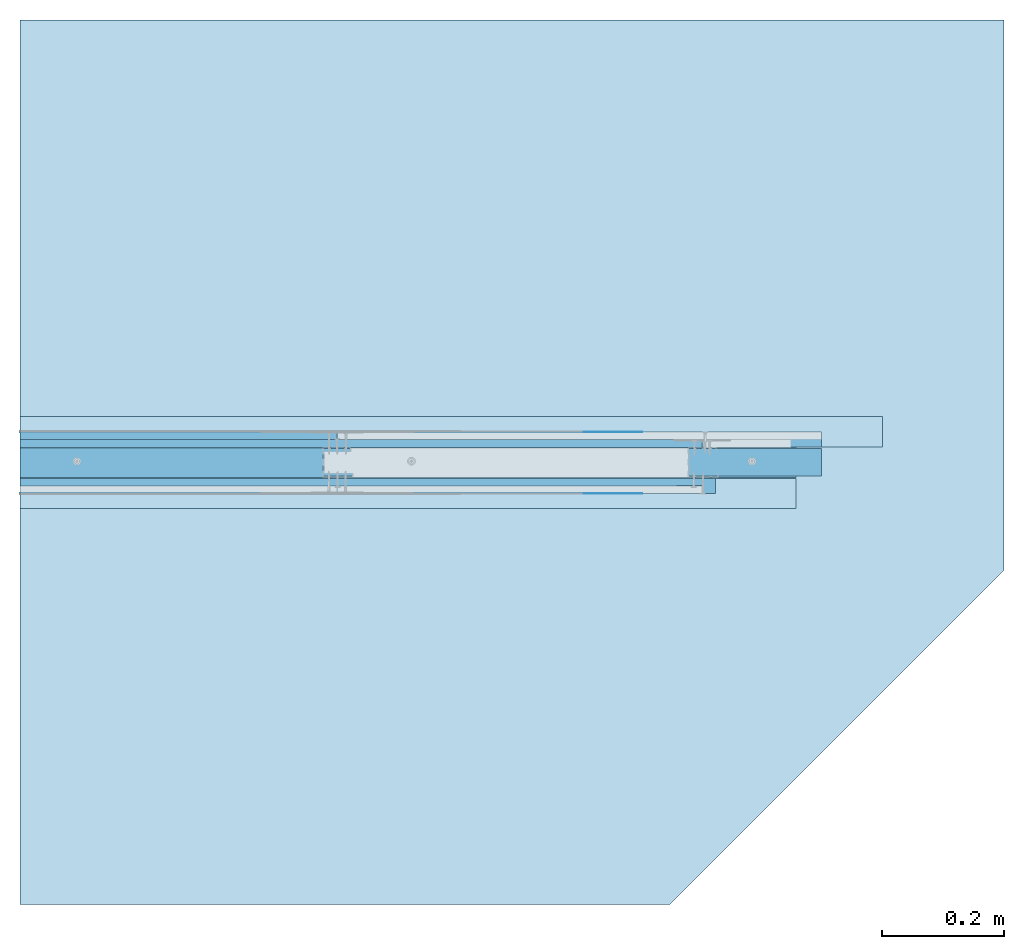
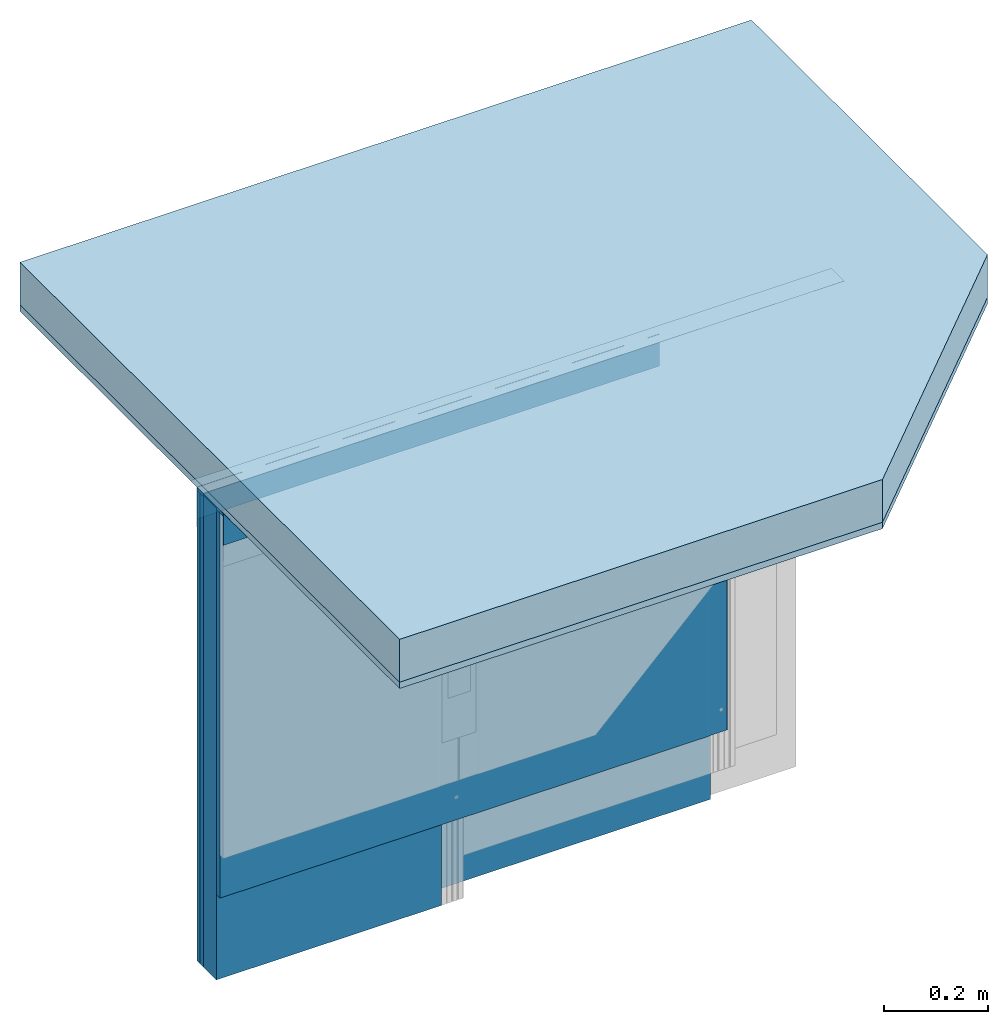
# One storey, part 1 of 37: 10 walls, 4 slabs.
"""IFC2X3 building model written with IfcOpenShell, lengths in millimetres."""

from ifc_helpers import new_model, entity, si_unit, converted_unit, direction, frame, origin, origin_with_axes, place, context, project, spatial, faceted_brep, element, save


model = new_model("IFC2X3")

# Units and contexts
model_context = context("Model", 3, precision=1e-05, world=origin(), true_north=direction((0.0, 1.0, 0.0)))
ifc_project = project(units=[si_unit("LENGTHUNIT", "METRE", prefix="MILLI"), si_unit("AREAUNIT", "SQUARE_METRE"), si_unit("VOLUMEUNIT", "CUBIC_METRE"), converted_unit("PLANEANGLEUNIT", "DEGREE", entity("IfcPlaneAngleMeasure", 0.01745), si_unit("PLANEANGLEUNIT", "RADIAN"), dimensions=[0, 0, 0, 0, 0, 0, 0]), si_unit("SOLIDANGLEUNIT", "STERADIAN"), si_unit("MASSUNIT", "GRAM"), si_unit("TIMEUNIT", "SECOND"), si_unit("THERMODYNAMICTEMPERATUREUNIT", "DEGREE_CELSIUS"), si_unit("LUMINOUSINTENSITYUNIT", "LUMEN")], contexts=[model_context])

# Site, building, storey
site_placement = place(None, origin_with_axes())
site = spatial("IfcSite", under=ifc_project, at=site_placement, Name="Default Site", CompositionType="ELEMENT")
building_placement = place(site_placement, origin_with_axes())
building = spatial("IfcBuilding", under=site, at=building_placement, Name="Default Building", CompositionType="ELEMENT")
storey_placement = place(building_placement, origin_with_axes())
storey = spatial("IfcBuildingStorey", under=building, at=storey_placement, Name="Default Building Storey", CompositionType="ELEMENT", Elevation=0.0)

# Slabs
slab_1_placement = place(storey_placement, frame((3516.951496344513, -1290.142300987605, 1402.224461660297), z_axis=(7.620176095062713e-14, 6.858158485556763e-13, -1.0), x_axis=(1.0, 9.714451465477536e-17, 7.62017609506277e-14)))
element("IfcSlab", 1, at=slab_1_placement, inside=storey, Name="STROP", context=model_context, shape_type="Brep", body=[
    faceted_brep([(226.0891218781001, -3110.283223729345, -4.200000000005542), (-323.9108781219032, -2560.283223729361, -4.200000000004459), (-323.9108781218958, -2560.283223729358, -104.1999999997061), (226.0891218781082, -3110.283223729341, -104.199999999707), (-1391.926362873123, -2560.283223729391, -104.2000000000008), (-1391.92636287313, -2560.28322372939, -4.20000000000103), (-1391.926362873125, -4014.87455750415, -104.1999999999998), (226.0891218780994, -4014.874557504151, -104.1999999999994), (-1391.926362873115, -4014.874557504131, -4.199999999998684), (226.0891218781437, -4014.874557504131, -4.200000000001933)], [[[0, 1, 2, 3]], [[4, 2, 1, 5]], [[6, 7, 3, 2, 4]], [[8, 5, 1, 0, 9]], [[0, 3, 7, 9]], [[6, 8, 9, 7]], [[6, 4, 5, 8]]]),
])
slab_2_placement = place(storey_placement, frame((3516.95149634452, -1290.142300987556, 1302.224461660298), z_axis=(7.620176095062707e-14, 6.858158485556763e-13, -1.0), x_axis=(1.0, 9.714451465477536e-17, 7.62017609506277e-14)))
element("IfcSlab", 2, at=slab_2_placement, inside=storey, Name="TYNK", context=model_context, shape_type="Brep", body=[
    faceted_brep([(226.0891218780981, -3110.283223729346, -89.20000000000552), (-323.9108781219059, -2560.283223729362, -89.2000000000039), (-323.9108781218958, -2560.283223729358, -104.1999999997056), (226.0891218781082, -3110.283223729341, -104.1999999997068), (-1391.926362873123, -2560.283223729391, -104.2000000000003), (-1391.926362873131, -2560.283223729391, -89.20000000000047), (-1391.926362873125, -4014.87455750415, -104.1999999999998), (226.0891218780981, -4014.874557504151, -104.1999999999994), (-1391.926362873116, -4014.874557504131, -89.19999999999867), (226.0891218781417, -4014.874557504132, -89.2000000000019)], [[[0, 1, 2, 3]], [[4, 2, 1, 5]], [[6, 7, 3, 2, 4]], [[8, 5, 1, 0, 9]], [[0, 3, 7, 9]], [[6, 8, 9, 7]], [[6, 4, 5, 8]]]),
])
slab_3_placement = place(storey_placement, frame((2664.57132504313, 1208.720861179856, -1998.432260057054), z_axis=(1.0, -1.110223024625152e-16, 2.730755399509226e-18), x_axis=(-1.110223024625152e-16, -1.0, -7.216449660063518e-16)))
element("IfcSlab", 3, at=slab_3_placement, inside=storey, Name="Taśma samoprzylepna RIGIPS (ślizgowa)", context=model_context, shape_type="Brep", body=[
    faceted_brep([(-712.4592163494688, -3389.656721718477, 736.171398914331), (-712.4592163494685, -3389.856721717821, 736.1713989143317), (-762.4592163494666, -3389.856721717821, 736.1713989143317), (-762.4592163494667, -3389.656721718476, 736.171398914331), (-712.4592163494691, -3389.856721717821, -539.5461915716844), (-712.4592163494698, -3389.656721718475, -539.5461915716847), (-762.4592163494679, -3389.656721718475, -539.5461915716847), (-762.459216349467, -3389.856721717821, -539.5461915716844)], [[[0, 1, 2, 3]], [[4, 5, 6, 7]], [[5, 0, 3, 6]], [[6, 3, 2, 7]], [[7, 2, 1, 4]], [[4, 1, 0, 5]]]),
])
slab_4_placement = place(storey_placement, frame((2919.516757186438, 2784.953969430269, -1998.43226005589), z_axis=(-1.0, 1.56941221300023e-16, -1.594743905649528e-13), x_axis=(1.722546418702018e-16, 1.0, 1.359600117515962e-12)))
element("IfcSlab", 4, at=slab_4_placement, inside=storey, Name="Taśma samoprzylepna RIGIPS (ślizgowa)", context=model_context, shape_type="Brep", body=[
    faceted_brep([(-712.4592163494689, -3389.656721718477, 794.4916237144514), (-712.4592163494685, -3389.856721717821, 794.4916237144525), (-762.4592163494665, -3389.856721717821, 794.4916237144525), (-762.4592163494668, -3389.656721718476, 794.4916237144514), (-712.4592163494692, -3389.856721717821, -623.5238610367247), (-712.4592163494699, -3389.656721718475, -623.5238610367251), (-762.459216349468, -3389.656721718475, -623.5238610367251), (-762.4592163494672, -3389.856721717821, -623.5238610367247)], [[[0, 1, 2, 3]], [[4, 5, 6, 7]], [[5, 0, 3, 6]], [[6, 3, 2, 7]], [[7, 2, 1, 4]], [[4, 1, 0, 5]]]),
])

# Walls
wall_1_placement = place(storey_placement, frame((2662.545703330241, 5335.836799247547, 2103.68367801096), z_axis=(1.0, 1.078684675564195e-13, 1.253835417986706e-13), x_axis=(-1.253835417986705e-13, -6.938893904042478e-16, 1.0)))
element("IfcWall", 5, at=wall_1_placement, inside=storey, Name="Dedykowana masa szpachlowa Rigips - konstrukcyjna", context=model_context, shape_type="Brep", body=[
    faceted_brep([(-712.4592163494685, 3389.656721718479, 485.8839453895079), (-712.4592163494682, 3389.856721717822, 485.8839453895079), (-787.4592163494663, 3389.856721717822, 485.8839453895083), (-787.4592163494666, 3389.656721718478, 485.8839453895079), (-712.4592163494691, 3389.85672171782, -537.520569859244), (-712.4592163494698, 3389.656721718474, -537.520569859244), (-787.459216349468, 3389.656721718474, -537.520569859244), (-787.4592163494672, 3389.85672171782, -537.520569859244)], [[[0, 1, 2, 3]], [[4, 5, 6, 7]], [[5, 0, 3, 6]], [[6, 3, 2, 7]], [[7, 2, 1, 4]], [[4, 1, 0, 5]]]),
])
wall_2_placement = place(storey_placement, frame((2662.545703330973, -1342.51579897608, 2103.683678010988), z_axis=(1.0, 1.078684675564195e-13, 1.253835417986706e-13), x_axis=(-1.253835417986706e-13, -2.775557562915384e-17, 1.0)))
element("IfcWall", 6, at=wall_2_placement, inside=storey, Name="Dedykowana masa szpachlowa Rigips - konstrukcyjna", context=model_context, shape_type="Brep", body=[
    faceted_brep([(-712.4592163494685, -3389.656721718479, 485.8839453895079), (-712.4592163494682, -3389.856721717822, 485.8839453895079), (-787.4592163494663, -3389.856721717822, 485.8839453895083), (-787.4592163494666, -3389.656721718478, 485.8839453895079), (-712.4592163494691, -3389.85672171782, -537.520569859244), (-712.4592163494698, -3389.656721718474, -537.520569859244), (-787.459216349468, -3389.656721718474, -537.520569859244), (-787.4592163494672, -3389.85672171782, -537.520569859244)], [[[0, 1, 2, 3]], [[4, 5, 6, 7]], [[5, 0, 3, 6]], [[6, 3, 2, 7]], [[7, 2, 1, 4]], [[4, 1, 0, 5]]]),
])
wall_3_placement = place(storey_placement, frame((3443.040618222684, 2022.494753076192, 1391.424461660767), z_axis=(0.0, 0.0, -1.0), x_axis=(1.0, 0.0, 0.0)))
element("IfcWall", 7, at=wall_3_placement, inside=storey, Name="Dedykowana masa szpachlowa Rigips - konstrukcyjna", context=model_context, shape_type="Brep", body=[
    faceted_brep([(0.0, -24.6461696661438, 0.199999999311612), (0.0, 0.0, 0.199999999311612), (-1318.015484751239, 0.0, 0.199999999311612), (-1318.015484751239, -24.6461696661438, 0.199999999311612), (0.0, 0.0, 7.614392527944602), (-1318.015484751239, 0.0, 7.614392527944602), (0.0, -24.6461696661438, 7.614392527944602), (-1318.015484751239, -24.6461696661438, 7.614392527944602)], [[[0, 1, 2, 3]], [[1, 4, 5, 2]], [[4, 6, 7, 5]], [[6, 0, 3, 7]], [[7, 3, 2, 5]], [[0, 6, 4, 1]]]),
])
wall_4_placement = place(storey_placement, frame((2646.429648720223, 2034.640922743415, 333.8084874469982), z_axis=(0.0, 0.0, -1.0), x_axis=(-1.0, 0.0, 0.0)))
element("IfcWall", 8, at=wall_4_placement, inside=storey, Name="Płyta gipsowo-kartonowa RIGIPS PRO (4PRO™)", context=model_context, shape_type="Brep", body=[
    faceted_brep([(521.4045152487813, 12.4999999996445, 50.00000000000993), (521.4045152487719, -3.277477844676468e-10, 50.00000000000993), (521.404515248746, -3.241382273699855e-10, -1050.001581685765), (521.4045152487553, 12.49999999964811, -1050.001581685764), (44.99999999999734, 12.50000000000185, 50.00000000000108), (40.99999999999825, 11.50000000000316, 50.00000000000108), (0.9999999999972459, 11.50000000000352, 50.00000000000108), (0.7411809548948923, 11.46592582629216, 50.00000000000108), (0.4999999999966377, 11.36602540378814, 50.00000000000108), (0.2928932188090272, 11.20710678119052, 50.00000000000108), (0.1339745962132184, 11.00000000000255, 50.00000000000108), (0.0340741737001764, 10.75881904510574, 50.00000000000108), (-3.248601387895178e-12, 10.50000000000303, 50.00000000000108), (-1.082867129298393e-12, -3.609557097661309e-13, 50.00000000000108), (44.99999999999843, 12.50000000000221, -1050.001581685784), (40.99999999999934, 11.50000000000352, -1050.001581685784), (0.9999999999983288, 11.50000000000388, -1050.001581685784), (0.7411809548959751, 11.46592582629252, -1050.001581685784), (0.4999999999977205, 11.3660254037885, -1050.001581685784), (0.29289321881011, 11.20710678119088, -1050.001581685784), (0.1339745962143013, 11.00000000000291, -1050.001581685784), (0.03407417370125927, 10.7588190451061, -1050.001581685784), (-2.165734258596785e-12, 10.50000000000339, -1050.001581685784), (0.0, 0.0, -1050.001581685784)], [[[0, 1, 2, 3]], [[0, 4, 5, 6, 7, 8, 9, 10, 11, 12, 13, 1]], [[3, 14, 4, 0]], [[5, 4, 14, 15]], [[6, 5, 15, 16]], [[7, 6, 16, 17]], [[8, 7, 17, 18]], [[9, 8, 18, 19]], [[10, 9, 19, 20]], [[11, 10, 20, 21]], [[12, 11, 21, 22]], [[13, 12, 22, 23]], [[2, 1, 13, 23]], [[14, 3, 2, 23, 22, 21, 20, 19, 18, 17, 16, 15]]]),
])
wall_5_placement = place(storey_placement, frame((3207.215400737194, 5452.42414647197, 1385.418092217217), z_axis=(6.446348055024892e-14, -6.858158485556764e-13, -1.0), x_axis=(1.0, -1.14833748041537e-16, 9.00774876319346e-14)))
element("IfcWall", 9, at=wall_5_placement, inside=storey, Name="Profil RIGIPS UW50 ULTRASTIL®", context=model_context, shape_type="Brep", body=[
    faceted_brep([(-943.956929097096, 3470.476261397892, -4.901701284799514), (-943.956929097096, 3470.287116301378, -4.783410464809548), (-943.956929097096, 3470.128902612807, -4.626130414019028), (-1082.190267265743, 3470.128902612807, -4.626130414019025), (-1082.190267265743, 3470.476261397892, -4.901701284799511), (-943.956929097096, 3470.063927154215, -4.535249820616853), (-943.956929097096, 3470.009494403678, -4.437688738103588), (-1082.190267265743, 3470.009494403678, -4.437688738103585), (-943.956929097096, 3440.279331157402, -4.783410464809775), (-943.956929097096, 3440.090186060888, -4.901701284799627), (-943.956929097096, 3439.87952304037, -4.97511570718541), (-1082.190267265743, 3439.87952304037, -4.975115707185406), (-1082.190267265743, 3440.279331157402, -4.783410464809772), (-943.9569290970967, 3440.819375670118, -2.866589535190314), (-943.9569290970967, 3441.008520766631, -2.748298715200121), (-943.9569290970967, 3441.219183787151, -2.674884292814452), (-1082.190267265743, 3441.219183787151, -2.67488429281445), (-1082.190267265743, 3440.819375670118, -2.866589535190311), (-943.9569290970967, 3469.55792669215, -2.74829871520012), (-943.9569290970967, 3469.747071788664, -2.866589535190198), (-943.9569290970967, 3469.905285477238, -3.023869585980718), (-1082.190267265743, 3469.905285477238, -3.023869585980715), (-1082.190267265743, 3469.55792669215, -2.748298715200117), (-1082.190267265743, 3479.733223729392, 35.00000000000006), (-1082.190267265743, 3480.283223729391, 35.00000000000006), (-1082.190267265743, 3480.283223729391, -4.199999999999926), (-1082.190267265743, 3480.273374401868, -4.325147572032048), (-1082.190267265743, 3480.244068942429, -4.447213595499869), (-1082.190267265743, 3480.196028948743, -4.563192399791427), (-1082.190267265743, 3480.130437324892, -4.670228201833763), (-1082.190267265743, 3480.048909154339, -4.765685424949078), (-1082.190267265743, 3479.953451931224, -4.847213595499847), (-1082.190267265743, 3479.846416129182, -4.912805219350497), (-1082.190267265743, 3479.73043732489, -4.960845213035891), (-1082.190267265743, 3479.608371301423, -4.99015067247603), (-1082.190267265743, 3479.483223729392, -4.999999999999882), (-1082.190267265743, 3470.908620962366, -4.999999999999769), (-1082.190267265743, 3470.686924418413, -4.975115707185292), (-1082.190267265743, 3469.680725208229, -3.762311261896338), (-1082.190267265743, 3469.561316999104, -3.573869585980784), (-1082.190267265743, 3469.403103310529, -3.416589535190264), (-1082.190267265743, 3469.213958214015, -3.298298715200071), (-1082.190267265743, 3469.003295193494, -3.224884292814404), (-1082.190267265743, 3468.781598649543, -3.199999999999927), (-1082.190267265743, 3441.78484880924, -3.199999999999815), (-1082.190267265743, 3441.563152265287, -3.224884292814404), (-1082.190267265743, 3441.352489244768, -3.298298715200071), (-1082.190267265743, 3441.163344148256, -3.416589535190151), (-1082.190267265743, 3441.005130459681, -3.573869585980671), (-1082.190267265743, 3440.885722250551, -3.762311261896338), (-1082.190267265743, 3440.556953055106, -4.437688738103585), (-1082.190267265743, 3440.437544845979, -4.626130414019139), (-1082.190267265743, 3439.657826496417, -4.999999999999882), (-1082.190267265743, 3431.083223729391, -4.999999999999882), (-1082.190267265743, 3430.95807615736, -4.990150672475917), (-1082.190267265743, 3430.83601013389, -4.960845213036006), (-1082.190267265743, 3430.720031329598, -4.912805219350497), (-1082.190267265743, 3430.612995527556, -4.847213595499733), (-1082.190267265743, 3430.51753830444, -4.765685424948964), (-1082.190267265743, 3430.436010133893, -4.670228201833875), (-1082.190267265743, 3430.370418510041, -4.563192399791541), (-1082.190267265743, 3430.322378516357, -4.447213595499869), (-1082.190267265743, 3430.293073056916, -4.325147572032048), (-1082.190267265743, 3430.283223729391, -4.199999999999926), (-1082.190267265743, 3430.283223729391, 35.00000000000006), (-1082.190267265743, 3430.833223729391, 35.00000000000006), (-1082.190267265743, 3430.833223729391, -4.199999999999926), (-1082.190267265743, 3430.836301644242, -4.23910861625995), (-1082.190267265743, 3430.845459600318, -4.27725424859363), (-1082.190267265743, 3430.860472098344, -4.313497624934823), (-1082.190267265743, 3430.880969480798, -4.346946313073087), (-1082.190267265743, 3430.906447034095, -4.376776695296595), (-1082.190267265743, 3430.936277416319, -4.402254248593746), (-1082.190267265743, 3430.969726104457, -4.422751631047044), (-1082.190267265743, 3431.005969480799, -4.437764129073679), (-1082.190267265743, 3431.044115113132, -4.44692208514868), (-1082.190267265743, 3431.083223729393, -4.449999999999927), (-1082.190267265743, 3439.313858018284, -4.45000000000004), (-1082.190267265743, 3439.535554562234, -4.425115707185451), (-1082.190267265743, 3439.746217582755, -4.351701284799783), (-1082.190267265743, 3439.935362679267, -4.233410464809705), (-1082.190267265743, 3440.093576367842, -4.076130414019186), (-1082.190267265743, 3440.212984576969, -3.887688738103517), (-1082.190267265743, 3440.541753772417, -3.212311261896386), (-1082.190267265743, 3440.661161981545, -3.02386958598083), (-1082.190267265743, 3441.440880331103, -2.649999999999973), (-1082.190267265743, 3469.125567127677, -2.649999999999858), (-1082.190267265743, 3469.347263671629, -2.674884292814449), (-1082.190267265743, 3470.024693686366, -3.212311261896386), (-1082.190267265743, 3470.353462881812, -3.887688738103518), (-1082.190267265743, 3470.472871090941, -4.076130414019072), (-1082.190267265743, 3470.631084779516, -4.233410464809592), (-1082.190267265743, 3470.820229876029, -4.351701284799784), (-1082.190267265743, 3471.030892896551, -4.425115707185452), (-1082.190267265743, 3471.252589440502, -4.449999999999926), (-1082.190267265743, 3479.483223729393, -4.449999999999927), (-1082.190267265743, 3479.522332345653, -4.446922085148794), (-1082.190267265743, 3479.560477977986, -4.437764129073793), (-1082.190267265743, 3479.596721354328, -4.422751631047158), (-1082.190267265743, 3479.630170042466, -4.402254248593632), (-1082.190267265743, 3479.660000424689, -4.376776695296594), (-1082.190267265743, 3479.685477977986, -4.346946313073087), (-1082.190267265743, 3479.705975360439, -4.313497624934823), (-1082.190267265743, 3479.720987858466, -4.27725424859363), (-1082.190267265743, 3479.730145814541, -4.23910861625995), (-1082.190267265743, 3479.733223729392, -4.199999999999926), (193.5273232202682, 3480.283223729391, -4.200000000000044), (193.5273232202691, 3480.283223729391, 35.0), (193.5273232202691, 3479.733223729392, 35.0), (193.5273232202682, 3479.733223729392, -4.200000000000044), (193.5273232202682, 3479.730145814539, -4.239108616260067), (193.5273232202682, 3479.720987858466, -4.277254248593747), (193.5273232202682, 3479.705975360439, -4.313497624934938), (193.5273232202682, 3479.685477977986, -4.346946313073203), (193.5273232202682, 3479.660000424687, -4.376776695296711), (193.5273232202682, 3479.630170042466, -4.402254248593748), (193.5273232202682, 3479.596721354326, -4.422751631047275), (193.5273232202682, 3479.560477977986, -4.43776412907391), (193.5273232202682, 3479.522332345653, -4.446922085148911), (193.5273232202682, 3479.483223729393, -4.450000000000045), (193.5273232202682, 3471.252589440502, -4.450000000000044), (193.5273232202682, 3471.030892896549, -4.425115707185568), (193.5273232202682, 3470.820229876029, -4.3517012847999), (193.5273232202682, 3470.631084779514, -4.233410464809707), (193.5273232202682, 3470.472871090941, -4.076130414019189), (193.5273232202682, 3470.353462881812, -3.887688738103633), (193.5273232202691, 3470.024693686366, -3.212311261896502), (193.5273232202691, 3469.905285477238, -3.023869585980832), (193.5273232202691, 3469.747071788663, -2.866589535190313), (193.5273232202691, 3469.55792669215, -2.748298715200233), (193.5273232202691, 3469.347263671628, -2.674884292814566), (193.5273232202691, 3469.125567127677, -2.649999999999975), (193.5273232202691, 3441.440880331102, -2.650000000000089), (193.5273232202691, 3441.219183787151, -2.674884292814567), (193.5273232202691, 3441.008520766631, -2.748298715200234), (193.5273232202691, 3440.819375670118, -2.866589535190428), (193.5273232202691, 3440.661161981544, -3.023869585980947), (193.5273232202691, 3440.541753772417, -3.212311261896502), (193.5273232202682, 3440.212984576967, -3.887688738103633), (193.5273232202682, 3440.093576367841, -4.076130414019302), (193.5273232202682, 3439.935362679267, -4.233410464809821), (193.5273232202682, 3439.746217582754, -4.3517012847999), (193.5273232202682, 3439.535554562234, -4.425115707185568), (193.5273232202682, 3439.313858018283, -4.450000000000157), (193.5273232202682, 3431.083223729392, -4.450000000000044), (193.5273232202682, 3431.044115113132, -4.446922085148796), (193.5273232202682, 3431.005969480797, -4.437764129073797), (193.5273232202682, 3430.969726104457, -4.422751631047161), (193.5273232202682, 3430.936277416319, -4.402254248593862), (193.5273232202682, 3430.906447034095, -4.376776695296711), (193.5273232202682, 3430.880969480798, -4.346946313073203), (193.5273232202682, 3430.860472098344, -4.313497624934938), (193.5273232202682, 3430.845459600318, -4.277254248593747), (193.5273232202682, 3430.836301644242, -4.239108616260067), (193.5273232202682, 3430.833223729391, -4.200000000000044), (193.5273232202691, 3430.833223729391, 35.0), (193.5273232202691, 3430.283223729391, 35.0), (193.5273232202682, 3430.283223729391, -4.200000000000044), (193.5273232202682, 3430.293073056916, -4.325147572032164), (193.5273232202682, 3430.322378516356, -4.447213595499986), (193.5273232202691, 3430.370418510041, -4.563192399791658), (193.5273232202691, 3430.436010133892, -4.670228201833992), (193.5273232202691, 3430.51753830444, -4.765685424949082), (193.5273232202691, 3430.612995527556, -4.84721359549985), (193.5273232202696, 3430.720031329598, -4.912805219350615), (193.5273232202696, 3430.83601013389, -4.960845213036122), (193.5273232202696, 3430.958076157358, -4.990150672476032), (193.5273232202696, 3431.083223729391, -4.999999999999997), (193.5273232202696, 3439.657826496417, -4.999999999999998), (193.5273232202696, 3439.879523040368, -4.975115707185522), (193.5273232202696, 3440.090186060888, -4.901701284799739), (193.5273232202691, 3440.279331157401, -4.783410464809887), (193.5273232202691, 3440.437544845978, -4.626130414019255), (193.5273232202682, 3440.556953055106, -4.437688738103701), (193.5273232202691, 3440.88572225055, -3.762311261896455), (193.5273232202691, 3441.005130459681, -3.573869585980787), (193.5273232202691, 3441.163344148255, -3.416589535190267), (193.5273232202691, 3441.352489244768, -3.298298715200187), (193.5273232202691, 3441.563152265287, -3.22488429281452), (193.5273232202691, 3441.78484880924, -3.199999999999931), (193.5273232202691, 3468.781598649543, -3.200000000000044), (193.5273232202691, 3469.003295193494, -3.22488429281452), (193.5273232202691, 3469.213958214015, -3.298298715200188), (193.5273232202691, 3469.403103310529, -3.416589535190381), (193.5273232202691, 3469.561316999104, -3.5738695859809), (193.5273232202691, 3469.680725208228, -3.762311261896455), (193.5273232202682, 3470.009494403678, -4.437688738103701), (193.5273232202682, 3470.063927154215, -4.535249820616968), (193.5273232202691, 3470.128902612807, -4.626130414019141), (193.5273232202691, 3470.287116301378, -4.783410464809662), (193.5273232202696, 3470.476261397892, -4.901701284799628), (193.5273232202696, 3470.686924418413, -4.975115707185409), (193.5273232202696, 3470.908620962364, -4.999999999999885), (193.5273232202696, 3479.483223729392, -4.999999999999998), (193.5273232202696, 3479.608371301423, -4.990150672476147), (193.5273232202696, 3479.730437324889, -4.960845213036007), (193.5273232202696, 3479.846416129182, -4.912805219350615), (193.5273232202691, 3479.953451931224, -4.847213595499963), (193.5273232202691, 3480.048909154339, -4.765685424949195), (193.5273232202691, 3480.130437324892, -4.670228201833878), (193.5273232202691, 3480.196028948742, -4.563192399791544), (193.5273232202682, 3480.244068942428, -4.447213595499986), (193.5273232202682, 3480.273374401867, -4.325147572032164)], [[[0, 1, 2, 3, 4]], [[2, 5, 6, 7, 3]], [[8, 9, 10, 11, 12]], [[13, 14, 15, 16, 17]], [[18, 19, 20, 21, 22]], [[23, 24, 25, 26, 27, 28, 29, 30, 31, 32, 33, 34, 35, 36, 37, 4, 3, 7, 38, 39, 40, 41, 42, 43, 44, 45, 46, 47, 48, 49, 50, 51, 12, 11, 52, 53, 54, 55, 56, 57, 58, 59, 60, 61, 62, 63, 64, 65, 66, 67, 68, 69, 70, 71, 72, 73, 74, 75, 76, 77, 78, 79, 80, 81, 82, 83, 84, 17, 16, 85, 86, 87, 22, 21, 88, 89, 90, 91, 92, 93, 94, 95, 96, 97, 98, 99, 100, 101, 102, 103, 104, 105]], [[106, 107, 108, 109, 110, 111, 112, 113, 114, 115, 116, 117, 118, 119, 120, 121, 122, 123, 124, 125, 126, 127, 128, 129, 130, 131, 132, 133, 134, 135, 136, 137, 138, 139, 140, 141, 142, 143, 144, 145, 146, 147, 148, 149, 150, 151, 152, 153, 154, 155, 156, 157, 158, 159, 160, 161, 162, 163, 164, 165, 166, 167, 168, 169, 170, 171, 172, 173, 174, 175, 176, 177, 178, 179, 180, 181, 182, 183, 184, 185, 186, 187, 188, 189, 190, 191, 192, 193, 194, 195, 196, 197, 198, 199, 200, 201, 202]], [[63, 157, 156, 64]], [[64, 156, 155, 65]], [[65, 155, 154, 66]], [[144, 76, 75, 145]], [[74, 146, 145, 75]], [[73, 147, 146, 74]], [[147, 73, 72, 148]], [[71, 149, 148, 72]], [[149, 71, 70, 150]], [[69, 151, 150, 70]], [[68, 152, 151, 69]], [[152, 68, 67, 153]], [[66, 154, 153, 67]], [[76, 144, 143, 77]], [[81, 139, 138, 82]], [[80, 140, 139, 81]], [[79, 141, 140, 80]], [[143, 142, 78, 77]], [[78, 142, 141, 79]], [[82, 138, 137, 83]], [[15, 133, 132, 85, 16]], [[14, 134, 133, 15]], [[13, 135, 134, 14]], [[84, 136, 135, 13, 17]], [[137, 136, 84, 83]], [[85, 132, 131, 86]], [[20, 127, 126, 88, 21]], [[19, 128, 127, 20]], [[18, 129, 128, 19]], [[87, 130, 129, 18, 22]], [[131, 130, 87, 86]], [[88, 126, 125, 89]], [[93, 121, 120, 94]], [[92, 122, 121, 93]], [[91, 123, 122, 92]], [[125, 124, 90, 89]], [[90, 124, 123, 91]], [[94, 120, 119, 95]], [[109, 105, 104, 110]], [[103, 111, 110, 104]], [[102, 112, 111, 103]], [[112, 102, 101, 113]], [[100, 114, 113, 101]], [[114, 100, 99, 115]], [[98, 116, 115, 99]], [[97, 117, 116, 98]], [[117, 97, 96, 118]], [[95, 119, 118, 96]], [[105, 109, 108, 23]], [[23, 108, 107, 24]], [[24, 107, 106, 25]], [[33, 195, 194, 34]], [[194, 193, 35, 34]], [[32, 196, 195, 33]], [[30, 198, 197, 31]], [[197, 196, 32, 31]], [[28, 200, 199, 29]], [[199, 198, 30, 29]], [[27, 201, 200, 28]], [[25, 106, 202, 26]], [[202, 201, 27, 26]], [[35, 193, 192, 36]], [[5, 2, 188, 187]], [[187, 186, 6, 5]], [[1, 189, 188, 2]], [[0, 190, 189, 1]], [[37, 191, 190, 0, 4]], [[192, 191, 37, 36]], [[6, 186, 185, 38, 7]], [[42, 181, 180, 43]], [[41, 182, 181, 42]], [[40, 183, 182, 41]], [[185, 184, 39, 38]], [[39, 184, 183, 40]], [[43, 180, 179, 44]], [[48, 175, 174, 49]], [[47, 176, 175, 48]], [[46, 177, 176, 47]], [[179, 178, 45, 44]], [[45, 178, 177, 46]], [[49, 174, 173, 50]], [[10, 169, 168, 52, 11]], [[9, 170, 169, 10]], [[8, 171, 170, 9]], [[51, 172, 171, 8, 12]], [[173, 172, 51, 50]], [[52, 168, 167, 53]], [[61, 159, 158, 62]], [[158, 157, 63, 62]], [[60, 160, 159, 61]], [[58, 162, 161, 59]], [[161, 160, 60, 59]], [[56, 164, 163, 57]], [[163, 162, 58, 57]], [[55, 165, 164, 56]], [[53, 167, 166, 54]], [[166, 165, 55, 54]]]),
])
wall_6_placement = place(storey_placement, frame((3246.843862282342, 2022.140922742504, -21.74697047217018), z_axis=(0.0, 0.0, -1.0), x_axis=(-1.0, -8.049116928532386e-16, 0.0)))
element("IfcWall", 10, at=wall_6_placement, inside=storey, Name="Płyta gipsowo-kartonowa RIGIPS PRO (4PRO™)", context=model_context, shape_type="Brep", body=[
    faceted_brep([(1121.818728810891, 12.50000000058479, -305.5554579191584), (1121.818728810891, -3.609557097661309e-13, -305.5554579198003), (1121.818728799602, 3.495134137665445e-09, -1405.557039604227), (1121.818728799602, 12.50000000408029, -1405.557039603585), (44.99999999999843, 12.50000000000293, -305.5554579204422), (44.99999999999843, 12.50000000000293, -1405.557039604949), (40.99999999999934, 11.50000000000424, -305.5554579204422), (40.99999999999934, 11.50000000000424, -1405.557039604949), (0.9999999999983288, 11.5000000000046, -305.5554579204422), (0.9999999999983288, 11.5000000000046, -1405.557039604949), (0.7411809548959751, 11.46592582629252, -305.5554579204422), (0.7411809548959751, 11.46592582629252, -1405.557039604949), (0.4999999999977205, 11.3660254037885, -305.5554579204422), (0.4999999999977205, 11.3660254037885, -1405.557039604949), (0.29289321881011, 11.20710678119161, -305.5554579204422), (0.29289321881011, 11.20710678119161, -1405.557039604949), (0.1339745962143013, 11.00000000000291, -305.5554579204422), (0.1339745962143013, 11.00000000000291, -1405.557039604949), (0.03407417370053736, 10.7588190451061, -305.5554579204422), (0.03407417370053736, 10.7588190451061, -1405.557039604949), (-2.887645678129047e-12, 10.50000000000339, -305.5554579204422), (-2.887645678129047e-12, 10.50000000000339, -1405.557039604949), (0.0, 0.0, -305.5554579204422), (0.0, 0.0, -1405.557039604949)], [[[0, 1, 2, 3]], [[4, 0, 3, 5]], [[6, 4, 5, 7]], [[8, 6, 7, 9]], [[10, 8, 9, 11]], [[12, 10, 11, 13]], [[14, 12, 13, 15]], [[16, 14, 15, 17]], [[18, 16, 17, 19]], [[20, 18, 19, 21]], [[22, 20, 21, 23]], [[1, 22, 23, 2]], [[2, 23, 21, 19, 17, 15, 13, 11, 9, 7, 5, 3]], [[0, 4, 6, 8, 10, 12, 14, 16, 18, 20, 22, 1]]]),
])
wall_7_placement = place(storey_placement, frame((3247.741854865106, 5452.42414647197, 1385.418092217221), z_axis=(6.44634805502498e-14, -6.858158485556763e-13, -1.0), x_axis=(1.0, -1.14833748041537e-16, 9.007748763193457e-14)))
element("IfcWall", 11, at=wall_7_placement, inside=storey, Name="Taśma uszczelniająca piankowa RIGIPS", context=model_context, shape_type="Brep", body=[
    faceted_brep([(-1122.716721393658, 3477.783223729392, -5.000000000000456), (-1122.716721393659, 3477.862841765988, -6.00636944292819), (-1122.716721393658, 3432.691889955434, -5.864971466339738), (-1122.716721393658, 3432.783223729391, -5.000000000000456), (195.2987633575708, 3477.862841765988, -6.006369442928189), (195.2987633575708, 3477.783223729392, -5.000000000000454), (195.2987633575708, 3432.783223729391, -5.000000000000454), (195.2987633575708, 3432.691889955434, -5.864971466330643)], [[[0, 1, 2, 3]], [[4, 5, 6, 7]], [[5, 0, 3, 6]], [[6, 3, 2, 7]], [[7, 2, 1, 4]], [[4, 1, 0, 5]]]),
])
wall_8_placement = place(storey_placement, frame((2048.42964872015, 1971.180077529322, 233.8084874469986), z_axis=(0.0, 0.0, -1.0), x_axis=(1.0, 0.0, 0.0)))
element("IfcWall", 12, at=wall_8_placement, inside=storey, Name="Płyta gipsowo-kartonowa RIGIPS PRO (4PRO™)", context=model_context, shape_type="Brep", body=[
    faceted_brep([(76.59548475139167, 0.0, -249.9999999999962), (76.59548475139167, 12.50000000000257, -249.9999999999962), (76.59548475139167, 12.50000000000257, -1150.001581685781), (76.59548475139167, 0.0, -1150.001581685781), (1200.0, 0.0, -249.9999999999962), (1200.000000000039, 10.49999999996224, -249.9999999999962), (1199.965925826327, 10.75881904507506, -249.9999999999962), (1199.866025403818, 10.99999999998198, -249.9999999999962), (1199.707106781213, 11.20710678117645, -249.9999999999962), (1199.50000000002, 11.36602540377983, -249.9999999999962), (1199.258819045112, 11.46592582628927, -249.9999999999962), (1199.0, 11.50000000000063, -249.9999999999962), (1158.999999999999, 11.50000000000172, -249.9999999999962), (1155.000000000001, 12.49999999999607, -249.9999999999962), (1199.965925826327, 10.75881904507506, -1150.001581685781), (1199.866025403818, 10.99999999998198, -1150.001581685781), (1199.707106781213, 11.20710678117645, -1150.001581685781), (1199.50000000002, 11.36602540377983, -1150.001581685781), (1199.258819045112, 11.46592582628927, -1150.001581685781), (1199.0, 11.50000000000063, -1150.001581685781), (1158.999999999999, 11.50000000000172, -1150.001581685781), (1155.000000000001, 12.49999999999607, -1150.001581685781), (1200.0, 0.0, -1150.001581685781), (1200.000000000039, 10.49999999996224, -1150.001581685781)], [[[0, 1, 2, 3]], [[0, 4, 5, 6, 7, 8, 9, 10, 11, 12, 13, 1]], [[7, 6, 14, 15]], [[8, 7, 15, 16]], [[9, 8, 16, 17]], [[10, 9, 17, 18]], [[11, 10, 18, 19]], [[12, 11, 19, 20]], [[13, 12, 20, 21]], [[2, 1, 13, 21]], [[3, 22, 4, 0]], [[5, 4, 22, 23]], [[6, 5, 23, 14]], [[14, 23, 22, 3, 2, 21, 20, 19, 18, 17, 16, 15]]]),
])
wall_9_placement = place(storey_placement, frame((3268.314756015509, 1946.180077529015, 1391.424461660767), z_axis=(0.0, 0.0, -1.0), x_axis=(1.0, 0.0, 0.0)))
element("IfcWall", 13, at=wall_9_placement, inside=storey, Name="Dedykowana masa szpachlowa Rigips - konstrukcyjna", context=model_context, shape_type="Brep", body=[
    faceted_brep([(0.0, -25.00000000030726, 0.1999999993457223), (0.0, 0.0, 0.1999999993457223), (-1143.289622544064, 0.0, 0.1999999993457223), (-1143.289622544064, -25.00000000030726, 0.1999999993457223), (0.0, 0.0, 7.614392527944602), (-1143.289622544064, 0.0, 7.614392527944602), (0.0, -25.00000000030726, 7.614392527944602), (-1143.289622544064, -25.00000000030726, 7.614392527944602)], [[[0, 1, 2, 3]], [[1, 4, 5, 2]], [[4, 6, 7, 5]], [[6, 0, 3, 7]], [[7, 3, 2, 5]], [[0, 6, 4, 1]]]),
])
wall_10_placement = place(storey_placement, frame((2172.059826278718, 5452.42414647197, 1385.136349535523), z_axis=(0.0, 0.0, -1.0), x_axis=(1.0, 0.0, 0.0)))
element("IfcWall", 14, at=wall_10_placement, inside=storey, Name="Wełna mineralna szklana lub skalna ISOVER", context=model_context, shape_type="Brep", body=[
    faceted_brep([(-47.03469280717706, 3431.283223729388, 1101.327862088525), (-47.0346928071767, 3479.633223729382, 1101.327862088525), (-47.03469280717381, 3479.633223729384, -2.931742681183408), (-47.03469280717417, 3431.283223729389, -2.931742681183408), (450.8097109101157, 3431.283223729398, -2.931742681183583), (450.8097109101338, 3431.283223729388, 1101.327862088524), (450.8097109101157, 3479.633223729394, -2.931742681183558), (450.8097109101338, 3479.633223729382, 1101.327862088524)], [[[0, 1, 2, 3]], [[3, 4, 5, 0]], [[2, 6, 4, 3]], [[2, 1, 7, 6]], [[0, 5, 7, 1]], [[6, 7, 5, 4]]]),
])

save(model, "model.ifc")
